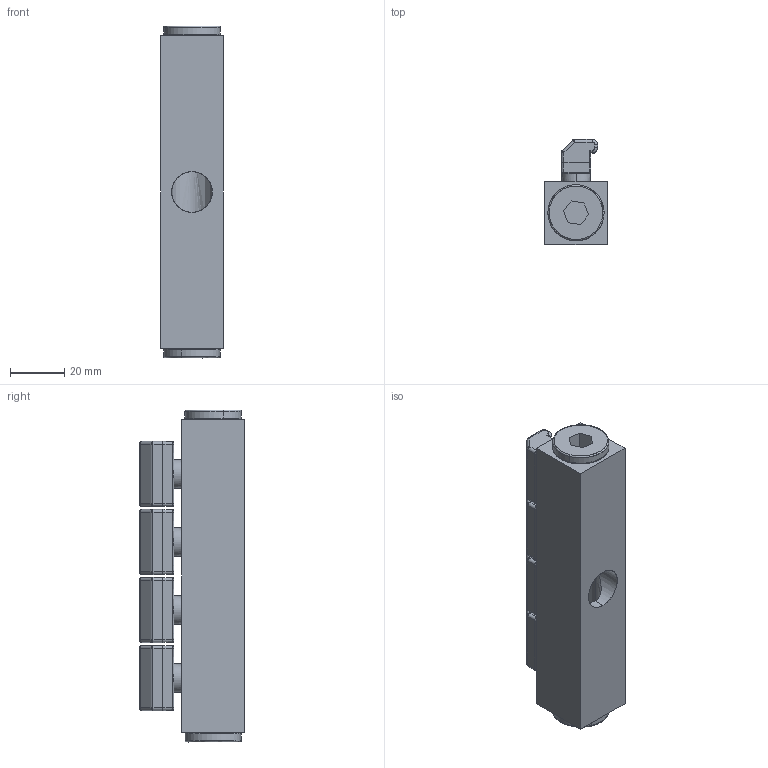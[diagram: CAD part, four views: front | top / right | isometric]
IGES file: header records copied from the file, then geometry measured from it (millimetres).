
Start section: SolidWorks IGES file using analytic representation for surfaces
Global section: file name: G:\Silvent\Ritningar\Övrigt\IGES\Silvent 364.IGS; native system: SolidWorks 2006 by SolidWorks Corporation; preprocessor: SolidWorks 2006 by SolidWorks Corporation; author: SilvRaTi; date: 061220.085630; units: millimetre
Bounding box: 23 x 38.5 x 122 mm (x, y, z)
Surface area: 27471.5 mm2 (no closed solid volume)
Topology: 0 solids, 0 shells, 954 faces, 7641 edges, 7633 vertices
Faces by surface type: bspline 618, revolution 336
